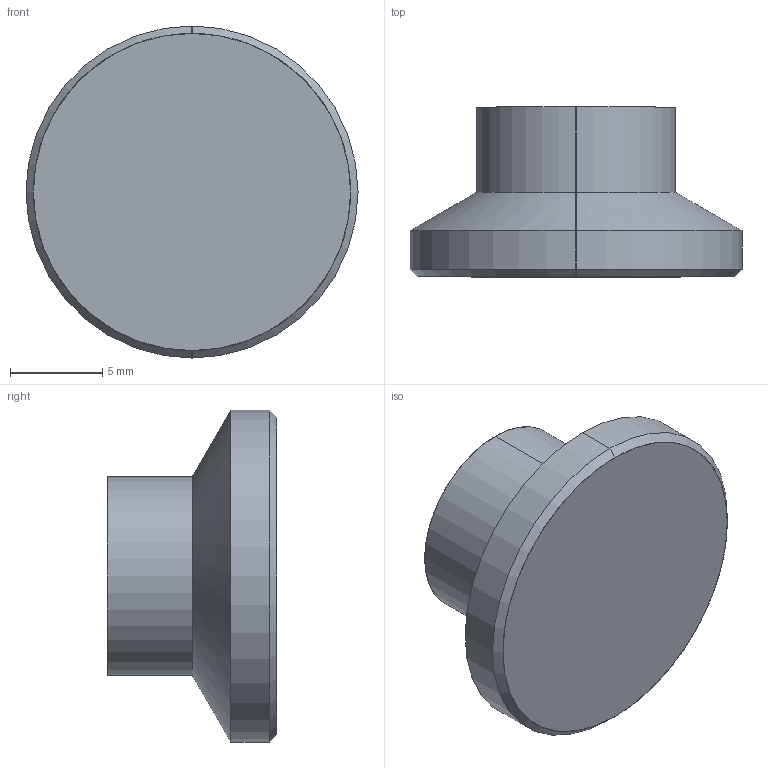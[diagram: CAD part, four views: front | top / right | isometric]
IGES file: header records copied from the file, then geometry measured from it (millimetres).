
Start section: SolidWorks IGES file using analytic representation for surfaces
Global section: file name: C:\Documents and Settings\IanO.IANOHOME\My Documents\Wix and Auto CAD Work\CAD Models\Parametric Models\Wix Models\34530\34530_IGES\34530.W0017.igs; native system: SolidWorks 2009; preprocessor: SolidWorks 2009; author: IanO; date: 110803.110623; units: millimetre
Bounding box: 18 x 9.2 x 18 mm (x, y, z)
Surface area: 985.1 mm2 (no closed solid volume)
Topology: 0 solids, 0 shells, 14 faces, 180 edges, 176 vertices
Faces by surface type: revolution 12, bspline 2
